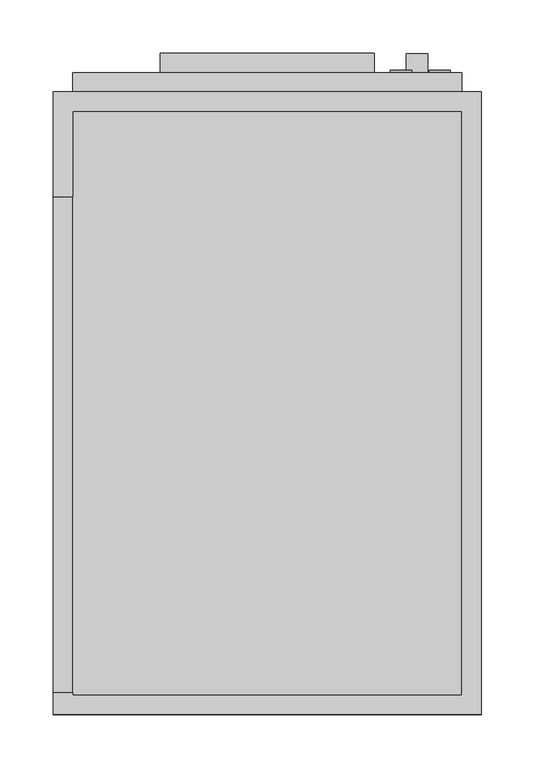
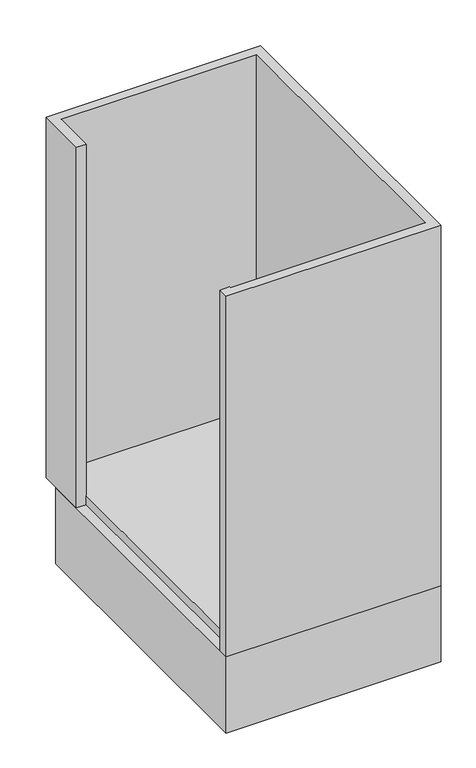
"""IFC4 building model written with IfcOpenShell, lengths in millimetres: proxy geometry, BIMHealth-400x600mm_Base_Unit_with_drawer_lockable-LOD2A-v1 : BIMHealth-400x600mm_Base_Unit_with_drawer_lockable-LOD2A-v1."""

from ifc_helpers import new_model, si_unit, point, frame, frame_2d, origin, origin_with_axes, place, context, project, spatial, polyline, circle_curve, trimmed, segment, composite_curve, outline, extrude, faceted_brep, source, transform, mapped, element, save


def generic_models_1ffc3738(model_context):
    return source(origin(), model_context, "Body", "SolidModel", [
        extrude(outline(composite_curve([segment(trimmed(circle_curve(frame_2d((394.5110604, 361.1811485)), 10.0), [point((394.5110604, 351.1811485))], [point((394.5110604, 371.1811485))], False, "CARTESIAN"), True, "CONTINUOUS"), segment(trimmed(circle_curve(frame_2d((394.5110604, 361.1811485)), 10.0), [point((394.5110604, 371.1811485))], [point((394.5110604, 351.1811485))], False, "CARTESIAN"), True, "CONTINUOUS")], self_intersect=False), holes=[composite_curve([segment(trimmed(circle_curve(frame_2d((394.5110604, 361.1811485)), 7.5), [point((394.5110604, 353.6811485))], [point((394.5110604, 368.6811485))], True, "CARTESIAN"), True, "CONTINUOUS"), segment(trimmed(circle_curve(frame_2d((394.5110604, 361.1811485)), 7.5), [point((394.5110604, 368.6811485))], [point((394.5110604, 353.6811485))], True, "CARTESIAN"), True, "CONTINUOUS")], self_intersect=False)]), frame((0.0, 600.0, 0.0), z_axis=(0.0, 1.0, 0.0), x_axis=(0.0, 0.0, 1.0)), (0.0, 0.0, 1.0), 2.5),
        extrude(outline(composite_curve([segment(trimmed(circle_curve(frame_2d((765.0, 325.0)), 10.0), [point((765.0, 315.0))], [point((765.0, 335.0))], False, "CARTESIAN"), True, "CONTINUOUS"), segment(trimmed(circle_curve(frame_2d((765.0, 325.0)), 10.0), [point((765.0, 335.0))], [point((765.0, 315.0))], False, "CARTESIAN"), True, "CONTINUOUS")], self_intersect=False), holes=[composite_curve([segment(trimmed(circle_curve(frame_2d((765.0, 325.0)), 7.5), [point((765.0, 317.5))], [point((765.0, 332.5))], True, "CARTESIAN"), True, "CONTINUOUS"), segment(trimmed(circle_curve(frame_2d((765.0, 325.0)), 7.5), [point((765.0, 332.5))], [point((765.0, 317.5))], True, "CARTESIAN"), True, "CONTINUOUS")], self_intersect=False)]), frame((0.0, 600.0, 0.0), z_axis=(0.0, 1.0, 0.0), x_axis=(0.0, 0.0, 1.0)), (0.0, 0.0, 1.0), 2.5),
        faceted_brep([(400.0, 582.0, 150.0), (400.0, 0.0, 150.0), (0.0, 0.0, 150.0), (0.0, 20.3306335, 150.0), (18.0, 20.3306335, 150.0), (18.0, 484.0, 150.0), (0.0, 484.0, 150.0), (0.0, 582.0, 150.0), (382.0, 18.0, 860.0), (382.0, 18.0, 168.0), (18.0, 18.0, 168.0), (18.0, 18.0, 860.0), (382.0, 564.0, 860.0), (382.0, 564.0, 168.0), (18.0, 564.0, 860.0), (18.0, 564.0, 168.0), (18.0, 20.3306335, 168.0), (18.0, 484.0, 168.0), (400.0, 582.0, 860.0), (0.0, 582.0, 860.0), (0.0, 484.0, 860.0), (18.0, 484.0, 860.0), (18.0, 20.3306335, 860.0), (0.0, 20.3306335, 860.0), (0.0, 0.0, 860.0), (400.0, 0.0, 860.0)], [[[0, 1, 2, 3, 4, 5, 6, 7]], [[8, 9, 10, 11]], [[12, 13, 9, 8]], [[14, 15, 13, 12]], [[16, 10, 9, 13, 15, 17]], [[18, 19, 20, 21, 14, 12, 8, 11, 22, 23, 24, 25]], [[25, 1, 0, 18]], [[24, 2, 1, 25]], [[18, 0, 7, 19]], [[4, 16, 17, 5]], [[23, 3, 2, 24]], [[22, 16, 4, 3, 23]], [[11, 10, 16, 22]], [[21, 17, 15, 14]], [[20, 6, 5, 17, 21]], [[19, 7, 6, 20]]]),
        extrude(outline(polyline([(300.0, 618.0), (300.0, 600.0), (100.0, 600.0), (100.0, 618.0), (300.0, 618.0)])), frame((0.0, 0.0, 755.0), z_axis=(0.0, 0.0, 1.0), x_axis=(1.0, 0.0, 0.0)), (0.0, 0.0, 1.0), 20.0),
        extrude(outline(polyline([(350.0, 618.0), (350.0, 600.0), (330.0, 600.0), (330.0, 618.0), (350.0, 618.0)])), frame((0.0, 0.0, 420.0), z_axis=(0.0, 0.0, 1.0), x_axis=(1.0, 0.0, 0.0)), (0.0, 0.0, 1.0), 200.0),
        extrude(outline(polyline([(382.0, 582.0), (18.0, 582.0), (18.0, 600.0), (382.0, 600.0), (382.0, 582.0)])), frame((0.0, 0.0, 690.0), z_axis=(0.0, 0.0, 1.0), x_axis=(1.0, 0.0, 0.0)), (0.0, 0.0, 1.0), 150.0),
        extrude(outline(polyline([(382.0, 582.0), (18.0, 582.0), (18.0, 600.0), (382.0, 600.0), (382.0, 582.0)])), frame((0.0, 0.0, 188.0), z_axis=(0.0, 0.0, 1.0), x_axis=(1.0, 0.0, 0.0)), (0.0, 0.0, 1.0), 482.0),
        extrude(outline(polyline([(400.0, 0.0), (0.0, 0.0), (0.0, 550.0), (400.0, 550.0), (400.0, 0.0)]), holes=[polyline([(382.0, 18.0), (382.0, 532.0), (18.0, 532.0), (18.0, 18.0), (382.0, 18.0)])]), origin_with_axes(), (0.0, 0.0, 1.0), 150.0),
    ])


if __name__ == "__main__":
    model = new_model("IFC4")
    model_context = context("Model", 3, world=origin())
    ifc_project = project(units=[si_unit("LENGTHUNIT", "METRE", prefix="MILLI")], contexts=[model_context])
    site = spatial("IfcSite", under=ifc_project)
    building = spatial("IfcBuilding", under=site)
    placement = place(None, origin())
    generic_models_shape = generic_models_1ffc3738(model_context)
    element("IfcBuildingElementProxy", 1, Name="BIMHealth-400x600mm_Base_Unit_with_drawer_lockable-LOD2A-v1 : BIMHealth-400x600mm_Base_Unit_with_drawer_lockable-LOD2A-v1", ObjectType="BIMHealth-400x600mm_Base_Unit_with_drawer_lockable-LOD2A-v1 : BIMHealth-400x600mm_Base_Unit_with_drawer_lockable-LOD2A-v1", at=placement, inside=building, context=model_context, shape_type="MappedRepresentation", body=[
        mapped(generic_models_shape, transform((0.0, 0.0, 0.0), x_axis=(1.0, 0.0, 0.0), y_axis=(0.0, 1.0, 0.0), z_axis=(0.0, 0.0, 1.0))),
    ])
    save(model, "model.ifc")
